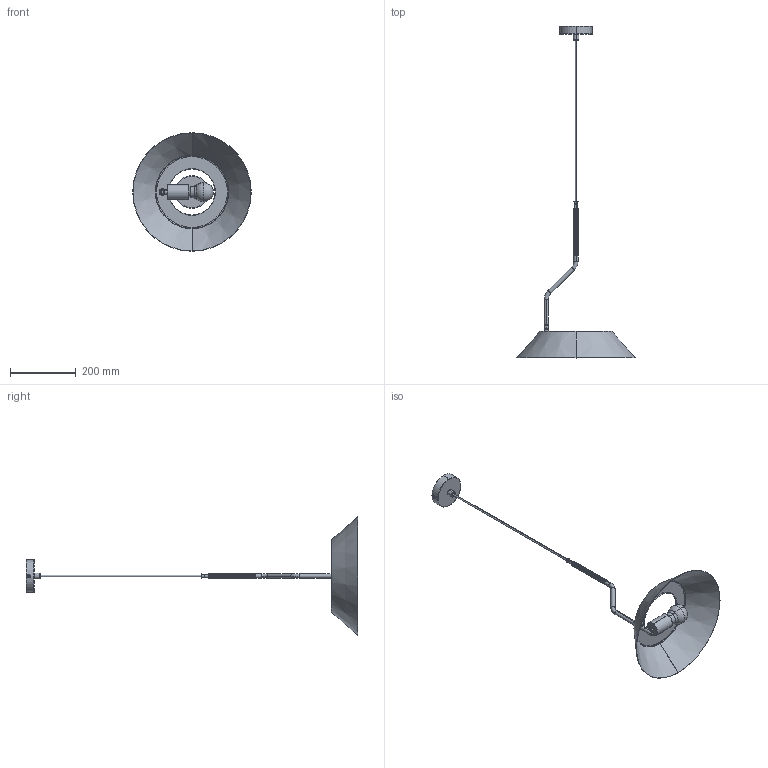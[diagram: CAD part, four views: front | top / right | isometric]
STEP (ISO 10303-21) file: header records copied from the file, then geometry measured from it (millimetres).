
FILE_DESCRIPTION (( 'STEP AP214' ), '1' );
FILE_NAME ('C1287_AIDER.STEP', '2024-01-24T14:36:32', ( '' ), ( '' ), 'SwSTEP 2.0', 'SolidWorks 2018', '' );
FILE_SCHEMA (( 'AUTOMOTIVE_DESIGN' ));
Length unit declared in the file: millimetre
Products named in the file (2): C1287_AIDER
Bounding box: 360 x 1008.95 x 360 mm (x, y, z)
Volume: 334491.3 mm3; surface area: 360244.3 mm2
Topology: 12 solids, 13 shells, 313 faces, 796 edges, 503 vertices
Faces by surface type: cylinder 176, torus 56, plane 41, cone 26, bspline 10, sphere 4
Full cylindrical faces by diameter (mm): 12.5 x12
Entity records: 24960 total; most frequent: CARTESIAN_POINT 14415, ORIENTED_EDGE 1588, DIRECTION 1347, EDGE_CURVE 794, AXIS2_PLACEMENT_3D 587, VERTEX_POINT 504, EDGE_LOOP 350, UNCERTAINTY_MEASURE_WITH_UNIT 327
